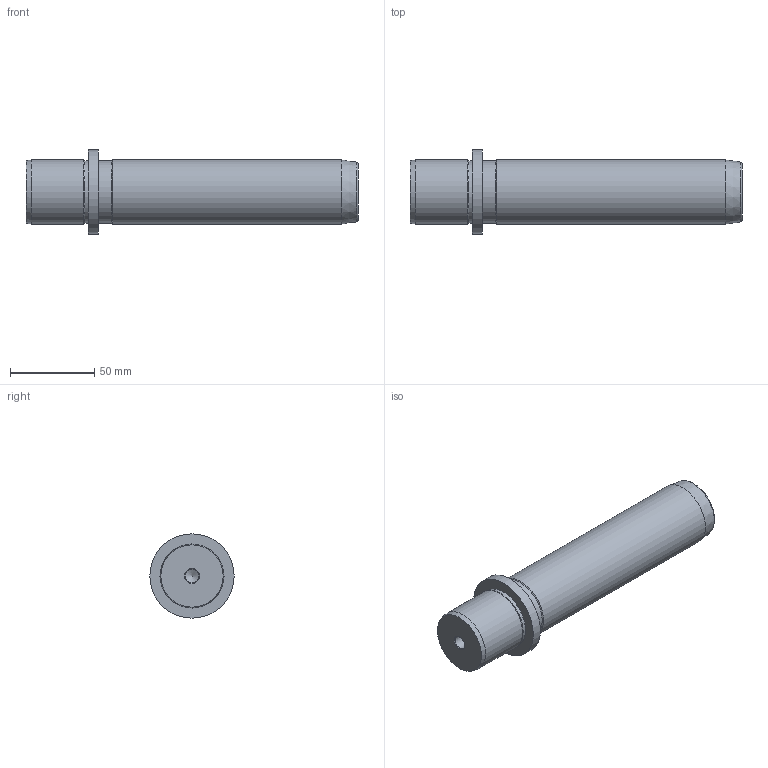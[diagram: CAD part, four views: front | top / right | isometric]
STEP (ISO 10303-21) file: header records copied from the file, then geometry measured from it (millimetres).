
FILE_DESCRIPTION(/* description */ ('Impex Ready, www.impex-ready.pl'),/* implementation_level */ '2;1');
FILE_NAME(/* name */ 'C:\Users\VIKKY\Nextcloud\SM\projekt 10 - części na stronę internetową\Pliki_3D_new\262 CEAQ Słup\262_CEAQ_STEP\CEAQ38160.ipt.step',/* time_stamp */ '2021-12-06T13:43:35+03:00',/* author */ ('SM'),/* organization */ (''),/* preprocessor_version */ 'ST-DEVELOPER v18.1',/* originating_system */ 'Autodesk Inventor 2021',/* authorisation */ '');
FILE_SCHEMA (('AUTOMOTIVE_DESIGN { 1 0 10303 214 3 1 1 }'));
Length unit declared in the file: millimetre
Products named in the file (1): CEAQ38160
Bounding box: 197 x 50 x 50 mm (x, y, z)
Volume: 224226.9 mm3; surface area: 28823.5 mm2
Topology: 1 solids, 1 shells, 20 faces, 38 edges, 22 vertices
Faces by surface type: cone 8, cylinder 7, plane 4, torus 1
Full cylindrical faces by diameter (mm): 8 x2, 37 x2, 38 x2, 50 x1
Entity records: 590 total; most frequent: DIRECTION 99, CARTESIAN_POINT 79, ORIENTED_EDGE 72, AXIS2_PLACEMENT_3D 42, EDGE_CURVE 36, EDGE_LOOP 24, VERTEX_POINT 22, CIRCLE 21
